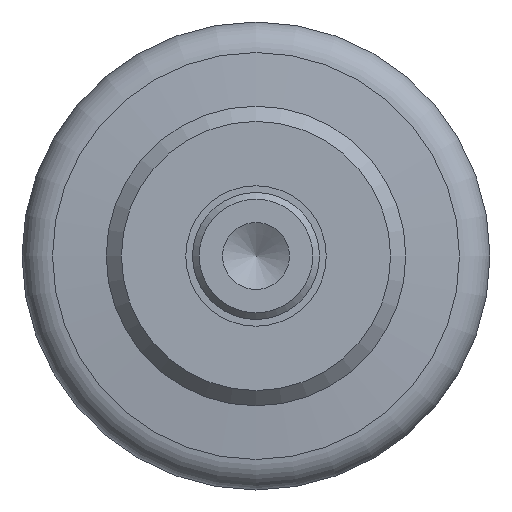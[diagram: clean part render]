
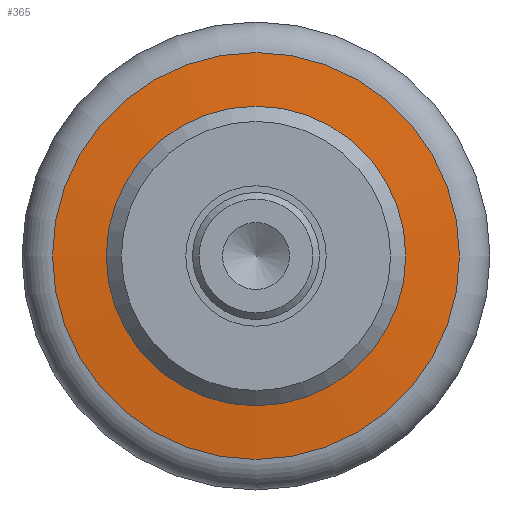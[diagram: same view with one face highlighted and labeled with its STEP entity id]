
A CAD part, left-side view. The second image highlights one B-rep face of the part: STEP entity #365.
In plain terms, the highlighted conical face has half-angle 85 degrees and reference radius 7.318 mm.
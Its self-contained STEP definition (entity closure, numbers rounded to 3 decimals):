
#18=CONICAL_SURFACE('',#421,7.318,85.);
#54=FACE_BOUND('',#138,.T.);
#86=FACE_OUTER_BOUND('',#137,.T.);
#137=EDGE_LOOP('',(#292));
#138=EDGE_LOOP('',(#293));
#179=CIRCLE('',#419,6.087);
#181=CIRCLE('',#422,4.48);
#210=VERTEX_POINT('',#631);
#212=VERTEX_POINT('',#636);
#241=EDGE_CURVE('',#210,#210,#179,.T.);
#243=EDGE_CURVE('',#212,#212,#181,.T.);
#292=ORIENTED_EDGE('',*,*,#243,.F.);
#293=ORIENTED_EDGE('',*,*,#241,.F.);
#365=ADVANCED_FACE('',(#86,#54),#18,.T.);
#419=AXIS2_PLACEMENT_3D('',#632,#525,#526);
#421=AXIS2_PLACEMENT_3D('',#635,#529,#530);
#422=AXIS2_PLACEMENT_3D('',#637,#531,#532);
#525=DIRECTION('center_axis',(1.,0.,0.));
#526=DIRECTION('ref_axis',(0.,-1.,0.));
#529=DIRECTION('center_axis',(1.,0.,0.));
#530=DIRECTION('ref_axis',(0.,1.,0.));
#531=DIRECTION('center_axis',(-1.,0.,0.));
#532=DIRECTION('ref_axis',(0.,1.,0.));
#631=CARTESIAN_POINT('',(14.141,6.087,0.));
#632=CARTESIAN_POINT('Origin',(14.141,0.,0.));
#635=CARTESIAN_POINT('Origin',(14.248,0.,0.));
#636=CARTESIAN_POINT('',(14.,4.48,0.));
#637=CARTESIAN_POINT('Origin',(14.,0.,0.));
